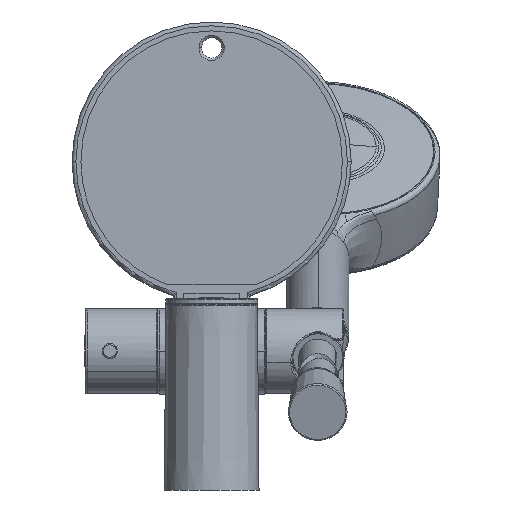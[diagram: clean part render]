
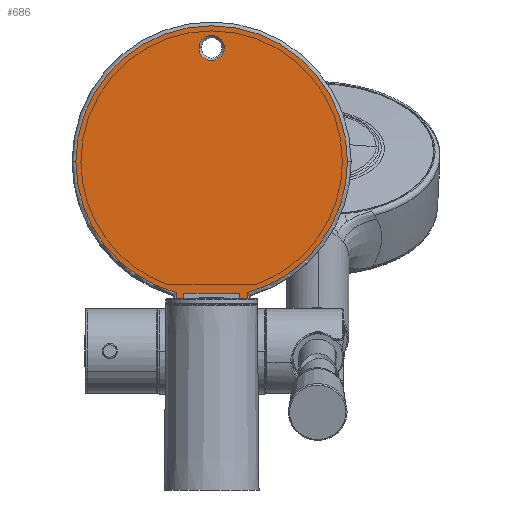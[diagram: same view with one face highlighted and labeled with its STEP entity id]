
A CAD part, front view. The second image highlights one B-rep face of the part: STEP entity #686.
In plain terms, the highlighted planar face has unit normal (0, -1, 0).
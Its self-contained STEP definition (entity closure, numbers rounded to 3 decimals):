
#111 = DIRECTION ( 'NONE',  ( 1., 0., 0. ) ) ;
#159 = ORIENTED_EDGE ( 'NONE', *, *, #17602, .F. ) ;
#203 = CARTESIAN_POINT ( 'NONE',  ( -53.75, 98.501, 130. ) ) ;
#314 = VERTEX_POINT ( 'NONE', #8804 ) ;
#666 = VECTOR ( 'NONE', #6862, 1000. ) ;
#685 = LINE ( 'NONE', #10630, #8978 ) ;
#686 = ADVANCED_FACE ( 'NONE', ( #2836, #1957 ), #15958, .T. ) ;
#721 = AXIS2_PLACEMENT_3D ( 'NONE', #744, #17735, #13443 ) ;
#744 = CARTESIAN_POINT ( 'NONE',  ( 0., 98.501, 130. ) ) ;
#951 = ORIENTED_EDGE ( 'NONE', *, *, #2299, .F. ) ;
#958 = DIRECTION ( 'NONE',  ( 0., 0., -1. ) ) ;
#991 = CARTESIAN_POINT ( 'NONE',  ( 6., 98.501, 74.45 ) ) ;
#997 = DIRECTION ( 'NONE',  ( 0., 0., 1. ) ) ;
#1056 = VERTEX_POINT ( 'NONE', #13561 ) ;
#1227 = CARTESIAN_POINT ( 'NONE',  ( 14., 98.501, 78.105 ) ) ;
#1941 = VECTOR ( 'NONE', #15268, 1000. ) ;
#1957 = FACE_OUTER_BOUND ( 'NONE', #18406, .T. ) ;
#2014 = ORIENTED_EDGE ( 'NONE', *, *, #4238, .T. ) ;
#2093 = DIRECTION ( 'NONE',  ( 0., 0., 1. ) ) ;
#2155 = CIRCLE ( 'NONE', #10163, 53.75 ) ;
#2287 = VECTOR ( 'NONE', #111, 1000. ) ;
#2299 = EDGE_CURVE ( 'NONE', #3772, #314, #8194, .T. ) ;
#2329 = ORIENTED_EDGE ( 'NONE', *, *, #7771, .F. ) ;
#2343 = ORIENTED_EDGE ( 'NONE', *, *, #13544, .F. ) ;
#2367 = DIRECTION ( 'NONE',  ( 0., -1., 0. ) ) ;
#2475 = CARTESIAN_POINT ( 'NONE',  ( 0., 98.501, 130. ) ) ;
#2504 = CARTESIAN_POINT ( 'NONE',  ( -2.5, 98.501, 179.33 ) ) ;
#2669 = VERTEX_POINT ( 'NONE', #203 ) ;
#2836 = FACE_BOUND ( 'NONE', #4727, .T. ) ;
#2861 = DIRECTION ( 'NONE',  ( 0., 0., 1. ) ) ;
#2888 = CARTESIAN_POINT ( 'NONE',  ( -11., 98.501, 77.95 ) ) ;
#2910 = CARTESIAN_POINT ( 'NONE',  ( 53.75, 98.501, 130. ) ) ;
#2974 = LINE ( 'NONE', #11804, #7232 ) ;
#3035 = VERTEX_POINT ( 'NONE', #7927 ) ;
#3114 = CARTESIAN_POINT ( 'NONE',  ( -11., 98.501, 74.45 ) ) ;
#3145 = LINE ( 'NONE', #6388, #13660 ) ;
#3147 = DIRECTION ( 'NONE',  ( 0., -1., 0. ) ) ;
#3268 = DIRECTION ( 'NONE',  ( 1., 0., 0. ) ) ;
#3283 = DIRECTION ( 'NONE',  ( -1., 0., 0. ) ) ;
#3772 = VERTEX_POINT ( 'NONE', #1227 ) ;
#3875 = VERTEX_POINT ( 'NONE', #2504 ) ;
#3919 = VERTEX_POINT ( 'NONE', #2888 ) ;
#4086 = CARTESIAN_POINT ( 'NONE',  ( 0., 98.501, 175. ) ) ;
#4188 = EDGE_CURVE ( 'NONE', #2669, #17228, #7339, .T. ) ;
#4211 = ORIENTED_EDGE ( 'NONE', *, *, #9404, .F. ) ;
#4230 = ORIENTED_EDGE ( 'NONE', *, *, #7558, .T. ) ;
#4238 = EDGE_CURVE ( 'NONE', #3772, #11474, #2155, .T. ) ;
#4432 = VERTEX_POINT ( 'NONE', #13079 ) ;
#4480 = ORIENTED_EDGE ( 'NONE', *, *, #12690, .T. ) ;
#4727 = EDGE_LOOP ( 'NONE', ( #8295, #2343 ) ) ;
#5004 = CARTESIAN_POINT ( 'NONE',  ( 0., 98.501, 77.95 ) ) ;
#5248 = ORIENTED_EDGE ( 'NONE', *, *, #7896, .T. ) ;
#5333 = DIRECTION ( 'NONE',  ( 0., 0., 1. ) ) ;
#5413 = ORIENTED_EDGE ( 'NONE', *, *, #8726, .T. ) ;
#5432 = ORIENTED_EDGE ( 'NONE', *, *, #12379, .T. ) ;
#5436 = CARTESIAN_POINT ( 'NONE',  ( 11., 98.501, 74.45 ) ) ;
#5449 = VECTOR ( 'NONE', #3268, 1000. ) ;
#6131 = LINE ( 'NONE', #12934, #2287 ) ;
#6155 = LINE ( 'NONE', #5004, #17934 ) ;
#6172 = EDGE_CURVE ( 'NONE', #3875, #16226, #7245, .T. ) ;
#6388 = CARTESIAN_POINT ( 'NONE',  ( 0., 98.501, 74.45 ) ) ;
#6435 = DIRECTION ( 'NONE',  ( 1., 0., 0. ) ) ;
#6862 = DIRECTION ( 'NONE',  ( 0., 0., 1. ) ) ;
#6901 = DIRECTION ( 'NONE',  ( 0., 0., 1. ) ) ;
#6945 = VECTOR ( 'NONE', #2861, 1000. ) ;
#7175 = CIRCLE ( 'NONE', #7214, 5. ) ;
#7214 = AXIS2_PLACEMENT_3D ( 'NONE', #14597, #14662, #14470 ) ;
#7232 = VECTOR ( 'NONE', #9053, 1000. ) ;
#7245 = CIRCLE ( 'NONE', #16631, 5. ) ;
#7339 = CIRCLE ( 'NONE', #13522, 53.75 ) ;
#7478 = LINE ( 'NONE', #16822, #10408 ) ;
#7558 = EDGE_CURVE ( 'NONE', #8803, #1056, #8747, .T. ) ;
#7739 = CARTESIAN_POINT ( 'NONE',  ( 11., 98.501, 76.2 ) ) ;
#7771 = EDGE_CURVE ( 'NONE', #13397, #13988, #3145, .T. ) ;
#7876 = VERTEX_POINT ( 'NONE', #16358 ) ;
#7896 = EDGE_CURVE ( 'NONE', #17228, #7876, #685, .T. ) ;
#7927 = CARTESIAN_POINT ( 'NONE',  ( 11., 98.501, 77.95 ) ) ;
#8094 = CARTESIAN_POINT ( 'NONE',  ( 2.5, 98.501, 170.67 ) ) ;
#8194 = LINE ( 'NONE', #16830, #1941 ) ;
#8259 = CARTESIAN_POINT ( 'NONE',  ( 0., 98.501, 130. ) ) ;
#8295 = ORIENTED_EDGE ( 'NONE', *, *, #6172, .F. ) ;
#8726 = EDGE_CURVE ( 'NONE', #11474, #2669, #12534, .T. ) ;
#8747 = LINE ( 'NONE', #14428, #6945 ) ;
#8803 = VERTEX_POINT ( 'NONE', #17855 ) ;
#8804 = CARTESIAN_POINT ( 'NONE',  ( 14., 98.501, 72.85 ) ) ;
#8978 = VECTOR ( 'NONE', #958, 1000. ) ;
#9053 = DIRECTION ( 'NONE',  ( 1., 0., 0. ) ) ;
#9404 = EDGE_CURVE ( 'NONE', #4432, #13397, #10753, .T. ) ;
#9800 = CARTESIAN_POINT ( 'NONE',  ( 6., 98.501, 55. ) ) ;
#10163 = AXIS2_PLACEMENT_3D ( 'NONE', #2475, #16696, #5333 ) ;
#10192 = ORIENTED_EDGE ( 'NONE', *, *, #18366, .T. ) ;
#10408 = VECTOR ( 'NONE', #6901, 1000. ) ;
#10630 = CARTESIAN_POINT ( 'NONE',  ( -14., 98.501, 75.478 ) ) ;
#10753 = LINE ( 'NONE', #9800, #666 ) ;
#11287 = LINE ( 'NONE', #7739, #12820 ) ;
#11474 = VERTEX_POINT ( 'NONE', #2910 ) ;
#11804 = CARTESIAN_POINT ( 'NONE',  ( 0., 98.501, 74.45 ) ) ;
#11860 = CARTESIAN_POINT ( 'NONE',  ( 0., 98.501, 55. ) ) ;
#12252 = EDGE_CURVE ( 'NONE', #13988, #3035, #11287, .T. ) ;
#12379 = EDGE_CURVE ( 'NONE', #3919, #3035, #6155, .T. ) ;
#12534 = CIRCLE ( 'NONE', #721, 53.75 ) ;
#12690 = EDGE_CURVE ( 'NONE', #7876, #8803, #17734, .T. ) ;
#12820 = VECTOR ( 'NONE', #2093, 1000. ) ;
#12934 = CARTESIAN_POINT ( 'NONE',  ( -10.75, 98.501, 72.85 ) ) ;
#13079 = CARTESIAN_POINT ( 'NONE',  ( 6., 98.501, 72.85 ) ) ;
#13397 = VERTEX_POINT ( 'NONE', #991 ) ;
#13443 = DIRECTION ( 'NONE',  ( 0., 0., 1. ) ) ;
#13522 = AXIS2_PLACEMENT_3D ( 'NONE', #8259, #2367, #997 ) ;
#13544 = EDGE_CURVE ( 'NONE', #16226, #3875, #7175, .T. ) ;
#13561 = CARTESIAN_POINT ( 'NONE',  ( -6., 98.501, 74.45 ) ) ;
#13660 = VECTOR ( 'NONE', #14865, 1000. ) ;
#13988 = VERTEX_POINT ( 'NONE', #5436 ) ;
#14348 = ORIENTED_EDGE ( 'NONE', *, *, #4188, .T. ) ;
#14428 = CARTESIAN_POINT ( 'NONE',  ( -6., 98.501, 55. ) ) ;
#14470 = DIRECTION ( 'NONE',  ( 0., 0., 1. ) ) ;
#14597 = CARTESIAN_POINT ( 'NONE',  ( 0., 98.501, 175. ) ) ;
#14662 = DIRECTION ( 'NONE',  ( 0., -1., 0. ) ) ;
#14865 = DIRECTION ( 'NONE',  ( 1., 0., 0. ) ) ;
#15268 = DIRECTION ( 'NONE',  ( 0., 0., -1. ) ) ;
#15342 = CARTESIAN_POINT ( 'NONE',  ( -14., 98.501, 78.105 ) ) ;
#15490 = AXIS2_PLACEMENT_3D ( 'NONE', #11860, #3147, #3283 ) ;
#15504 = DIRECTION ( 'NONE',  ( 0., -1., 0. ) ) ;
#15958 = PLANE ( 'NONE',  #15490 ) ;
#16190 = ORIENTED_EDGE ( 'NONE', *, *, #16328, .T. ) ;
#16226 = VERTEX_POINT ( 'NONE', #8094 ) ;
#16328 = EDGE_CURVE ( 'NONE', #18495, #3919, #7478, .T. ) ;
#16358 = CARTESIAN_POINT ( 'NONE',  ( -14., 98.501, 72.85 ) ) ;
#16631 = AXIS2_PLACEMENT_3D ( 'NONE', #4086, #15504, #16817 ) ;
#16696 = DIRECTION ( 'NONE',  ( 0., -1., 0. ) ) ;
#16817 = DIRECTION ( 'NONE',  ( 0., 0., 1. ) ) ;
#16822 = CARTESIAN_POINT ( 'NONE',  ( -11., 98.501, 76.2 ) ) ;
#16830 = CARTESIAN_POINT ( 'NONE',  ( 14., 98.501, 75.478 ) ) ;
#16925 = ORIENTED_EDGE ( 'NONE', *, *, #12252, .F. ) ;
#17228 = VERTEX_POINT ( 'NONE', #15342 ) ;
#17602 = EDGE_CURVE ( 'NONE', #18495, #1056, #2974, .T. ) ;
#17734 = LINE ( 'NONE', #17935, #5449 ) ;
#17735 = DIRECTION ( 'NONE',  ( 0., -1., 0. ) ) ;
#17855 = CARTESIAN_POINT ( 'NONE',  ( -6., 98.501, 72.85 ) ) ;
#17934 = VECTOR ( 'NONE', #6435, 1000. ) ;
#17935 = CARTESIAN_POINT ( 'NONE',  ( -10.75, 98.501, 72.85 ) ) ;
#18366 = EDGE_CURVE ( 'NONE', #4432, #314, #6131, .T. ) ;
#18406 = EDGE_LOOP ( 'NONE', ( #4480, #4230, #159, #16190, #5432, #16925, #2329, #4211, #10192, #951, #2014, #5413, #14348, #5248 ) ) ;
#18495 = VERTEX_POINT ( 'NONE', #3114 ) ;
